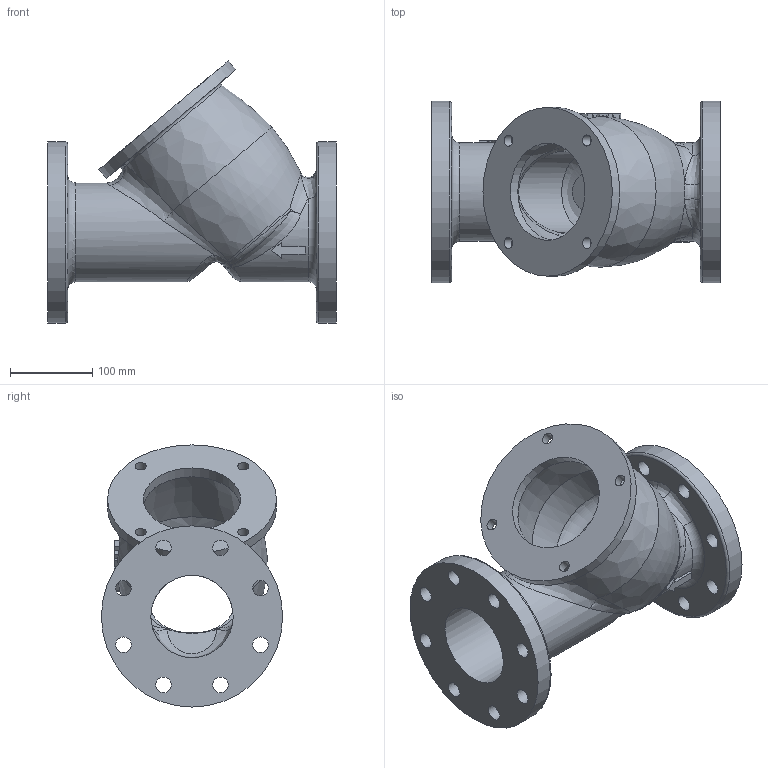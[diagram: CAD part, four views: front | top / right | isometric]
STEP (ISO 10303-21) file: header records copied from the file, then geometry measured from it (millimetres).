
FILE_DESCRIPTION( ( 'Unknown' ), '1' );
FILE_NAME( 'D:/Documentos Murilo/Desktop/VARB/2022/06 JUNHO/DESENHOS FILTRO Y 97/FILTRO 4/FILTRO 4.stp', 'Unknown', ( 'Unknown' ), ( 'Unknown' ), 'PSStep 11.0', 'Unknown', ' ' );
FILE_SCHEMA( ( 'AUTOMOTIVE_DESIGN { 1 0 10303 214 1 1 1 1 }' ) );
Length unit declared in the file: millimetre
Products named in the file (1): 1
Bounding box: 350 x 220 x 318.22 mm (x, y, z)
Volume: 3300109.7 mm3; surface area: 522989.2 mm2
Topology: 1 solids, 1 shells, 198 faces, 500 edges, 319 vertices
Faces by surface type: plane 86, bspline 46, cylinder 43, torus 10, extrusion 7, sphere 4, cone 2
Full cylindrical faces by diameter (mm): 13.5 x4, 19 x16, 100 x2, 118 x2, 120 x1, 205 x1, 220 x2
Entity records: 19483 total; most frequent: CARTESIAN_POINT 13604, ORIENTED_EDGE 900, DIRECTION 758, EDGE_CURVE 450, VERTEX_POINT 308, AXIS2_PLACEMENT_3D 298, EDGE_LOOP 296, FACE_OUTER_BOUND 231
